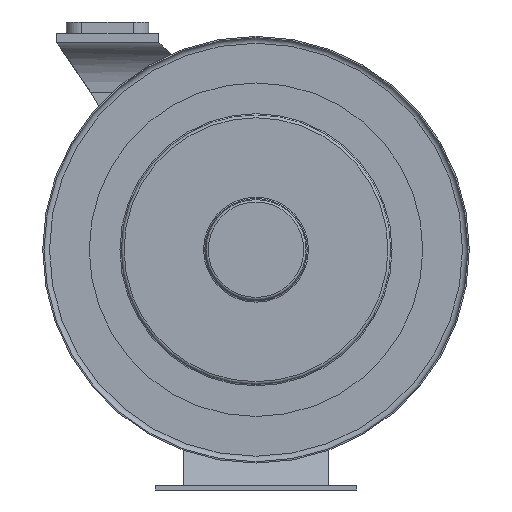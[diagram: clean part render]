
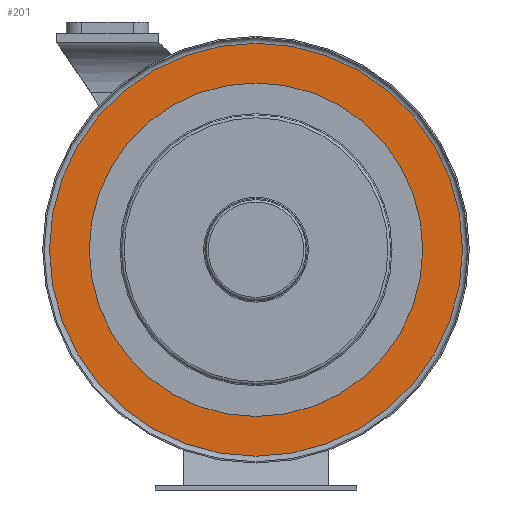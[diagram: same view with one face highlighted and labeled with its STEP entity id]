
A CAD part, front view. The second image highlights one B-rep face of the part: STEP entity #201.
In plain terms, the highlighted planar face has unit normal (0, -1, 0).
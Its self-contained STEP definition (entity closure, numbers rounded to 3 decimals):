
#201 = ADVANCED_FACE( '', ( #522, #523 ), #524, .F. );
#522 = FACE_BOUND( '', #1020, .T. );
#523 = FACE_OUTER_BOUND( '', #1021, .T. );
#524 = PLANE( '', #1022 );
#1020 = EDGE_LOOP( '', ( #1590 ) );
#1021 = EDGE_LOOP( '', ( #1591 ) );
#1022 = AXIS2_PLACEMENT_3D( '', #1592, #1593, #1594 );
#1590 = ORIENTED_EDGE( '', *, *, #2593, .F. );
#1591 = ORIENTED_EDGE( '', *, *, #2594, .T. );
#1592 = CARTESIAN_POINT( '', ( 0., -83.039, 233.579 ) );
#1593 = DIRECTION( '', ( 0., 1., 0. ) );
#1594 = DIRECTION( '', ( 0., 0., 1. ) );
#2593 = EDGE_CURVE( '', #3054, #3054, #3055, .T. );
#2594 = EDGE_CURVE( '', #3056, #3056, #3057, .T. );
#3054 = VERTEX_POINT( '', #3729 );
#3055 = CIRCLE( '', #3730, 188.608 );
#3056 = VERTEX_POINT( '', #3731 );
#3057 = CIRCLE( '', #3732, 233.579 );
#3729 = CARTESIAN_POINT( '', ( 0., -83.039, -188.608 ) );
#3730 = AXIS2_PLACEMENT_3D( '', #4577, #4578, #4579 );
#3731 = CARTESIAN_POINT( '', ( 0., -83.039, -233.579 ) );
#3732 = AXIS2_PLACEMENT_3D( '', #4580, #4581, #4582 );
#4577 = CARTESIAN_POINT( '', ( 0., -83.039, 0. ) );
#4578 = DIRECTION( '', ( 0., -1., 0. ) );
#4579 = DIRECTION( '', ( 0., 0., -1. ) );
#4580 = CARTESIAN_POINT( '', ( 0., -83.039, 0. ) );
#4581 = DIRECTION( '', ( 0., -1., 0. ) );
#4582 = DIRECTION( '', ( 0., 0., -1. ) );
